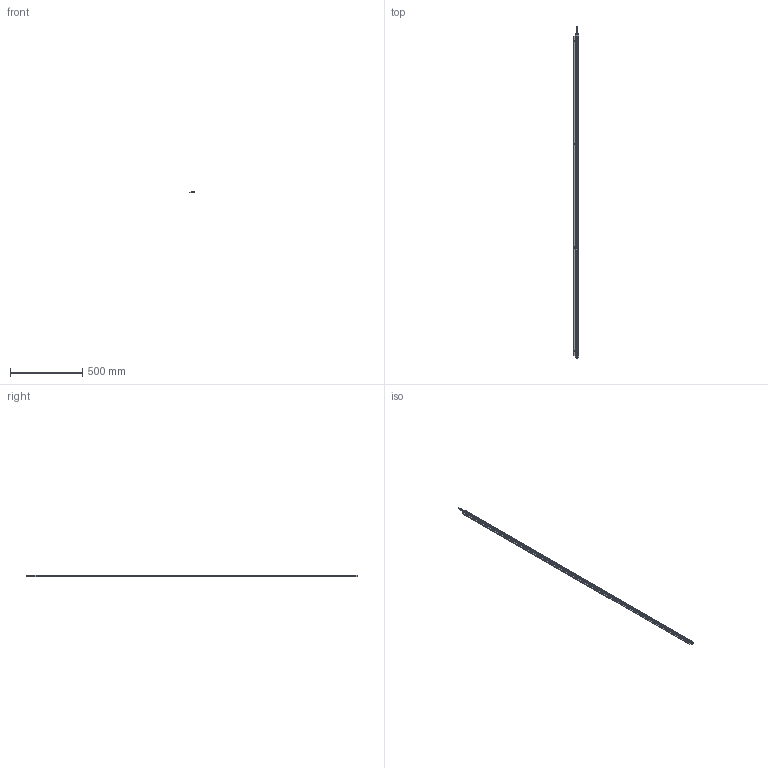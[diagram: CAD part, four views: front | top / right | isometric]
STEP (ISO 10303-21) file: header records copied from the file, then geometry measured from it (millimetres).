
FILE_DESCRIPTION (( 'STEP AP214' ), '1' );
FILE_NAME ('ILGA-L-K2-2240mm.STEP', '2026-04-25T08:28:03', ( '' ), ( '' ), 'SwSTEP 2.0', 'SolidWorks 2025', '' );
FILE_SCHEMA (( 'AUTOMOTIVE_DESIGN' ));
Length unit declared in the file: millimetre
Products named in the file (1): ILGA-L-K2-2240mm
Bounding box: 35 x 2294.5 x 10.7 mm (x, y, z)
Surface area: 346806 mm2 (no closed solid volume)
Topology: 0 solids, 13 shells, 931 faces, 2444 edges, 1515 vertices
Faces by surface type: cylinder 380, plane 343, cone 86, bspline 56, torus 50, sphere 16
Entity records: 41246 total; most frequent: CARTESIAN_POINT 8504, ORIENTED_EDGE 4769, DIRECTION 4682, EDGE_CURVE 2392, AXIS2_PLACEMENT_3D 1797, VERTEX_POINT 1515, LINE 1088, VECTOR 1088
